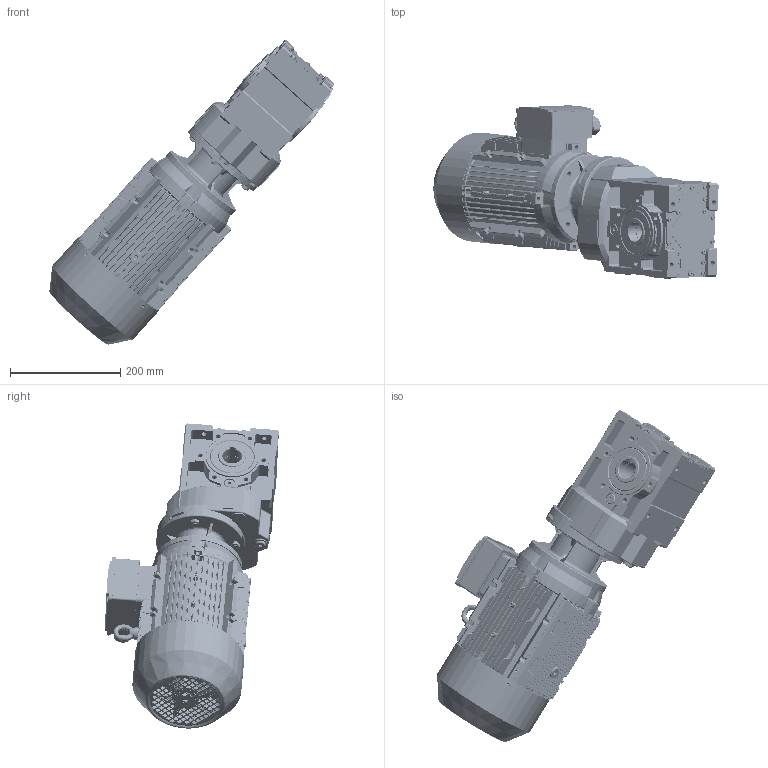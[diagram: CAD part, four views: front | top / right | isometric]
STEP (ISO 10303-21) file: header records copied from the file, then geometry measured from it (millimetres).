
FILE_DESCRIPTION (( 'STEP AP203' ), '1' );
FILE_NAME ('KV_203_0_MX3-100.STEP', '2018-11-21T12:25:20', ( '' ), ( '' ), 'SwSTEP 2.0', 'SolidWorks 2012', '' );
FILE_SCHEMA (( 'CONFIG_CONTROL_DESIGN' ));
Length unit declared in the file: millimetre
Products named in the file (16): KV_203_0_MX3-100; IE3 100 B14 flange; plain parallel keys_GB_CONNECTING_PIECE_KEYS_CSK 8X50; MX3-100L_B14; IE3 100 shaft cover; IE3 100 terminal box base; IE3 100 terminal box cover; IE3 100 fan; IE3 100 fan cover; IE3 100 Shaft; IE3 100 casing; eyebolts gb_GB_FASTENER_SCREWS_FRS M8-N; IE3 100 B3 Shield; 23100B14_Varsayìlan; ML119A_Varsayìlan; K203_Varsayìlan
Assembly tree (16 placements, depth 3):
  KV_203_0_MX3-100
    K203_Varsayìlan
    23100B14_Varsayìlan
    ML119A_Varsayìlan
    MX3-100L_B14
      IE3 100 casing
      IE3 100 B3 Shield
      IE3 100 Shaft
      eyebolts gb_GB_FASTENER_SCREWS_FRS M8-N
      IE3 100 terminal box base
      IE3 100 terminal box cover
      IE3 100 fan
      IE3 100 fan cover
      plain parallel keys_GB_CONNECTING_PIECE_KEYS_CSK 8X50
      IE3 100 shaft cover  x2
      IE3 100 B14 flange
Bounding box: 516.25 x 314.56 x 552.38 mm (x, y, z)
Volume: 6666763.8 mm3; surface area: 1445940.4 mm2
Topology: 16 solids, 18 shells, 6008 faces, 15404 edges, 9434 vertices
Faces by surface type: plane 1923, bspline 1628, cylinder 1515, cone 498, torus 332, sphere 112
Entity records: 242579 total; most frequent: CARTESIAN_POINT 109479, ORIENTED_EDGE 30138, DIRECTION 23725, EDGE_CURVE 15069, VERTEX_POINT 9326, AXIS2_PLACEMENT_3D 8682, EDGE_LOOP 6477, LINE 6361
